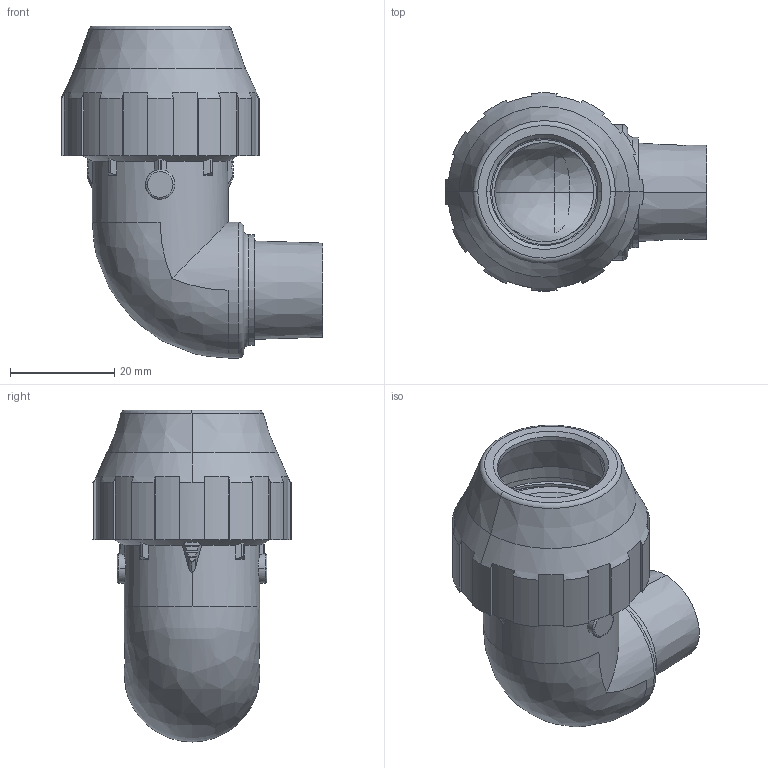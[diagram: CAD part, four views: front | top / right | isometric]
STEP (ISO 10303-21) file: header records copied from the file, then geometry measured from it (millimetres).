
FILE_DESCRIPTION (( 'STEP AP214' ), '1' );
FILE_NAME ('QLGO90MAL020048.STEP', '2019-04-24T07:37:14', ( 'utente' ), ( '' ), 'SwSTEP 2.0', 'SolidWorks 2017', '' );
FILE_SCHEMA (( 'AUTOMOTIVE_DESIGN' ));
Length unit declared in the file: millimetre
Products named in the file (3): QLGO90MAL020048; CCORGOM90020048AL_Rev1; CGHQUICK020AL _rev.5
Assembly tree (2 placements, depth 2):
  QLGO90MAL020048
    CGHQUICK020AL _rev.5
    CCORGOM90020048AL_Rev1
Bounding box: 50.2 x 37.96 x 63.63 mm (x, y, z)
Volume: 6495 mm3; surface area: 16942 mm2
Topology: 1 solids, 3 shells, 215 faces, 570 edges, 367 vertices
Faces by surface type: cylinder 93, plane 74, torus 18, cone 18, bspline 12
Entity records: 9290 total; most frequent: CARTESIAN_POINT 4032, ORIENTED_EDGE 1136, DIRECTION 1055, EDGE_CURVE 570, AXIS2_PLACEMENT_3D 413, VERTEX_POINT 367, VECTOR 229, LINE 229
